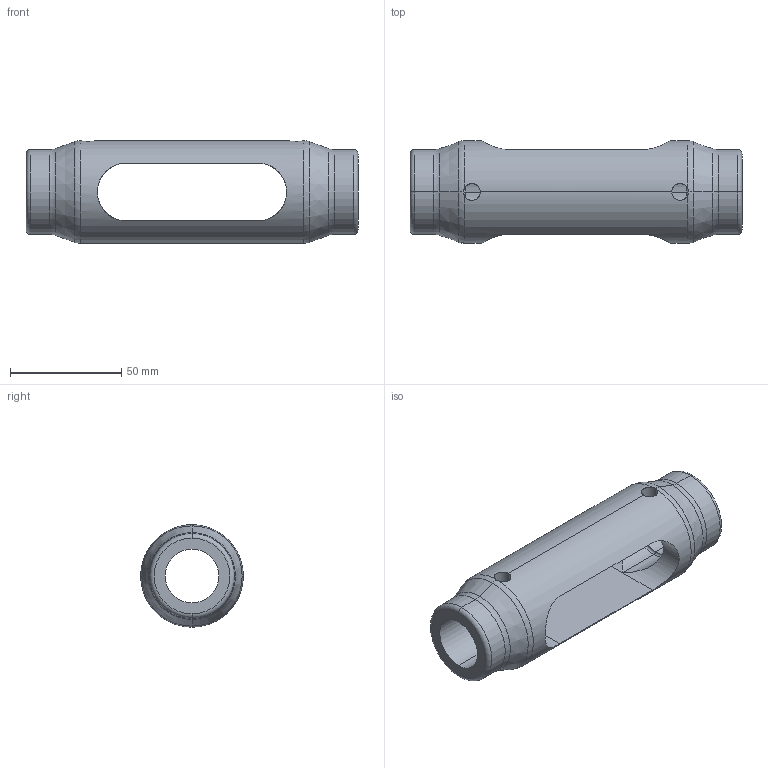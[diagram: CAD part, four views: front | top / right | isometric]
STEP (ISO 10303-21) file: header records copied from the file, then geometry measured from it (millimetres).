
FILE_DESCRIPTION (( 'STEP AP203' ), '1' );
FILE_NAME ('Kreuzmuffe M24.STEP', '2018-03-14T05:19:38', ( 'install' ), ( 'Hewlett-Packard Company' ), 'SwSTEP 2.0', 'SolidWorks 2017', '' );
FILE_SCHEMA (( 'CONFIG_CONTROL_DESIGN' ));
Length unit declared in the file: millimetre
Products named in the file (1): Kreuzmuffe M24
Bounding box: 149 x 46 x 46 mm (x, y, z)
Volume: 105608.6 mm3; surface area: 30255.2 mm2
Topology: 1 solids, 1 shells, 46 faces, 110 edges, 60 vertices
Faces by surface type: cylinder 22, torus 16, cone 4, plane 4
Entity records: 1813 total; most frequent: CARTESIAN_POINT 679, DIRECTION 232, ORIENTED_EDGE 220, EDGE_CURVE 110, AXIS2_PLACEMENT_3D 99, VERTEX_POINT 60, CIRCLE 52, EDGE_LOOP 50
